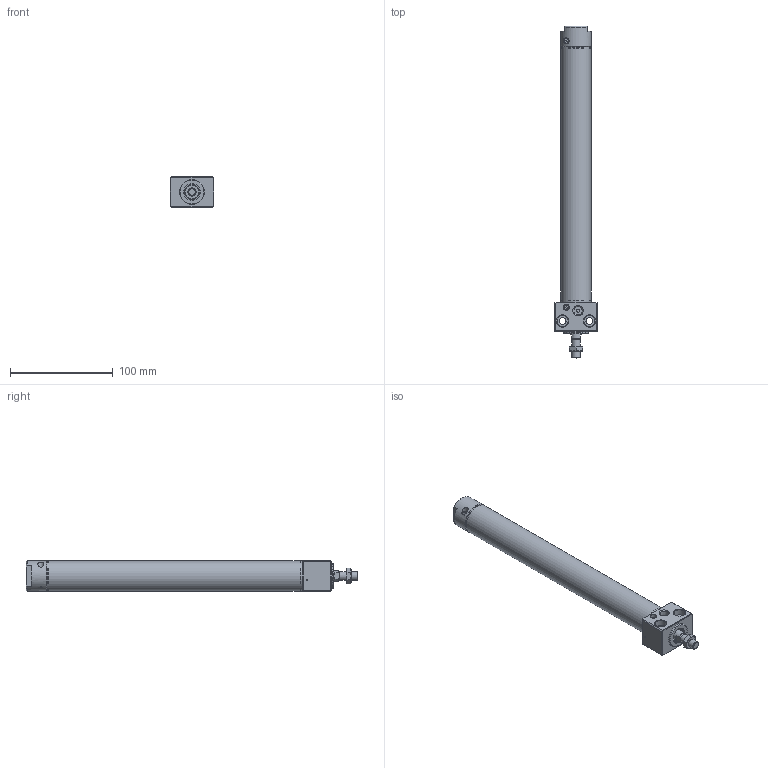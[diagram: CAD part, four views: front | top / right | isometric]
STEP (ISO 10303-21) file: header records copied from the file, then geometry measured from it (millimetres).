
FILE_DESCRIPTION((''),'2;1');
FILE_NAME('I:\3D電子目錄\氣缸\DBS\DBS\DBS25x200-C.stp','2007-10-08T08:35:04',('Administrator'),(''),'Autodesk Inventor 2008','Autodesk Inventor 2008','');
FILE_SCHEMA(('AUTOMOTIVE_DESIGN { 1 0 10303 214 1 1 1 1 }'));
Length unit declared in the file: millimetre
Products named in the file (1): DBS25x200-C
Bounding box: 42 x 323.6 x 30 mm (x, y, z)
Volume: 107130.6 mm3; surface area: 62839.6 mm2
Topology: 8 solids, 8 shells, 204 faces, 409 edges, 251 vertices
Faces by surface type: plane 90, cone 50, cylinder 48, bspline 13, torus 3
Full cylindrical faces by diameter (mm): 1.2 x1, 1.9 x2, 3 x3, 3.3 x2, 4.6 x2, 5 x3, 6 x3, 7 x1, 8 x2, 10 x1, 10.5 x1, 12 x1, 13 x2, 14 x1, 15.5 x2, 16 x2, 17 x1, 18 x2, 23 x2, 24 x1, 25 x1, 25.5 x2, 27.2 x6, 30 x4
Entity records: 5257 total; most frequent: CARTESIAN_POINT 1377, DIRECTION 812, ORIENTED_EDGE 622, AXIS2_PLACEMENT_3D 359, EDGE_LOOP 349, EDGE_CURVE 311, VERTEX_POINT 242, FACE_OUTER_BOUND 204
